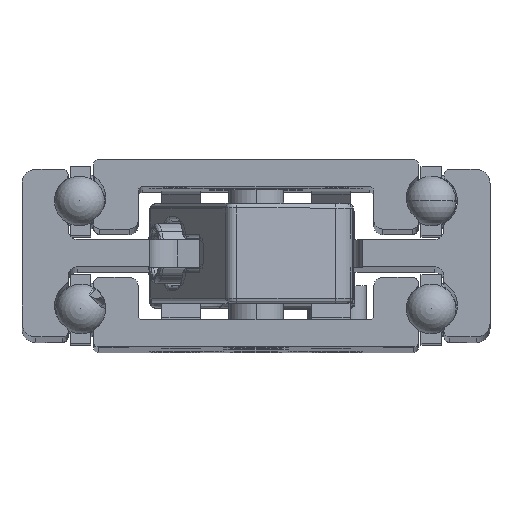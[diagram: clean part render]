
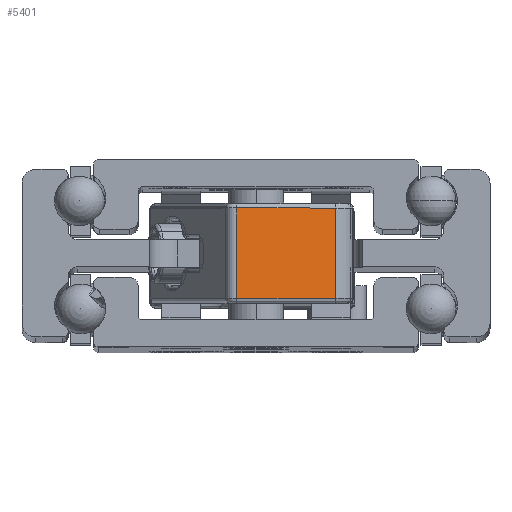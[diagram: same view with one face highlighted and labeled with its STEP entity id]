
A CAD part, top view. The second image highlights one B-rep face of the part: STEP entity #5401.
In plain terms, the highlighted planar face has unit normal (0.225, 0, 0.974) as drawn and (-1, 0, 0) by its records, which use the part's own axes.
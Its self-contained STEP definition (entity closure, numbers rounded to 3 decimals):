
#741 = AXIS2_PLACEMENT_3D ( 'NONE', #12656, #6106, #16476 ) ;
#1238 = CARTESIAN_POINT ( 'NONE',  ( -37., 8., 5.4 ) ) ;
#2115 = CARTESIAN_POINT ( 'NONE',  ( -37., -4., -4.9 ) ) ;
#2220 = EDGE_CURVE ( 'NONE', #17879, #5389, #20578, .T. ) ;
#3581 = EDGE_CURVE ( 'NONE', #5389, #7521, #22004, .T. ) ;
#3920 = CARTESIAN_POINT ( 'NONE',  ( -37., 8., 4.9 ) ) ;
#3934 = PLANE ( 'NONE',  #741 ) ;
#5166 = DIRECTION ( 'NONE',  ( 0., 0., 1. ) ) ;
#5389 = VERTEX_POINT ( 'NONE', #8291 ) ;
#5401 = ADVANCED_FACE ( 'NONE', ( #23036 ), #3934, .F. ) ;
#5528 = CARTESIAN_POINT ( 'NONE',  ( -37., -3., -4.9 ) ) ;
#5548 = VECTOR ( 'NONE', #5166, 1000. ) ;
#6106 = DIRECTION ( 'NONE',  ( 1., 0., 0. ) ) ;
#7521 = VERTEX_POINT ( 'NONE', #18930 ) ;
#8291 = CARTESIAN_POINT ( 'NONE',  ( -37., 8., 4.9 ) ) ;
#9683 = ORIENTED_EDGE ( 'NONE', *, *, #3581, .T. ) ;
#9828 = VECTOR ( 'NONE', #17889, 1000. ) ;
#10322 = DIRECTION ( 'NONE',  ( 0., 1., 0. ) ) ;
#10775 = ORIENTED_EDGE ( 'NONE', *, *, #17729, .T. ) ;
#12656 = CARTESIAN_POINT ( 'NONE',  ( -37., -4., 5.4 ) ) ;
#13464 = VECTOR ( 'NONE', #20694, 1000. ) ;
#13498 = LINE ( 'NONE', #15277, #5548 ) ;
#15277 = CARTESIAN_POINT ( 'NONE',  ( -37., -3., 5.4 ) ) ;
#16038 = ORIENTED_EDGE ( 'NONE', *, *, #2220, .T. ) ;
#16471 = EDGE_LOOP ( 'NONE', ( #10775, #16038, #9683, #23632 ) ) ;
#16476 = DIRECTION ( 'NONE',  ( 0., 0., -1. ) ) ;
#17729 = EDGE_CURVE ( 'NONE', #19730, #17879, #13498, .T. ) ;
#17879 = VERTEX_POINT ( 'NONE', #18952 ) ;
#17889 = DIRECTION ( 'NONE',  ( 0., 0., -1. ) ) ;
#18930 = CARTESIAN_POINT ( 'NONE',  ( -37., 8., -4.9 ) ) ;
#18952 = CARTESIAN_POINT ( 'NONE',  ( -37., -3., 4.9 ) ) ;
#19730 = VERTEX_POINT ( 'NONE', #5528 ) ;
#20578 = LINE ( 'NONE', #3920, #26804 ) ;
#20694 = DIRECTION ( 'NONE',  ( 0., -1., 0. ) ) ;
#22004 = LINE ( 'NONE', #1238, #9828 ) ;
#23036 = FACE_OUTER_BOUND ( 'NONE', #16471, .T. ) ;
#23151 = LINE ( 'NONE', #2115, #13464 ) ;
#23632 = ORIENTED_EDGE ( 'NONE', *, *, #26114, .T. ) ;
#26114 = EDGE_CURVE ( 'NONE', #7521, #19730, #23151, .T. ) ;
#26804 = VECTOR ( 'NONE', #10322, 1000. ) ;
